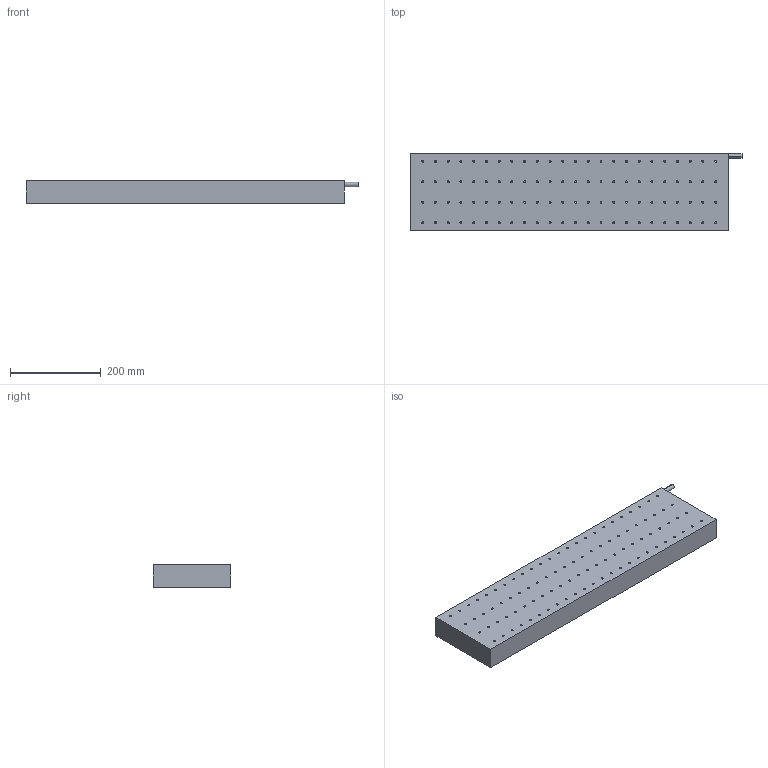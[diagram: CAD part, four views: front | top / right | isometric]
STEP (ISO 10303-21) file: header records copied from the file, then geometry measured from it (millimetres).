
FILE_DESCRIPTION (( 'STEP AP214' ), '1' );
FILE_NAME ('WKM150B雄赽.STEP', '2025-09-05T12:08:58', ( '' ), ( '' ), 'SwSTEP 2.0', 'SolidWorks 2016', '' );
FILE_SCHEMA (( 'AUTOMOTIVE_DESIGN' ));
Length unit declared in the file: millimetre
Products named in the file (1): WKM150B雄赽
Bounding box: 730 x 171 x 49.3 mm (x, y, z)
Volume: 5895461.9 mm3; surface area: 333364.4 mm2
Topology: 1 solids, 1 shells, 393 faces, 978 edges, 492 vertices
Faces by surface type: cylinder 194, cone 192, plane 7
Entity records: 12366 total; most frequent: DIRECTION 1962, CARTESIAN_POINT 1672, ORIENTED_EDGE 1572, EDGE_CURVE 786, AXIS2_PLACEMENT_3D 782, VERTEX_POINT 492, EDGE_LOOP 490, VECTOR 398
